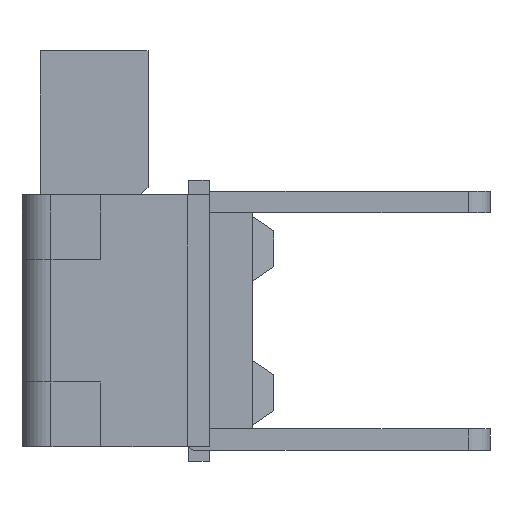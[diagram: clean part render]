
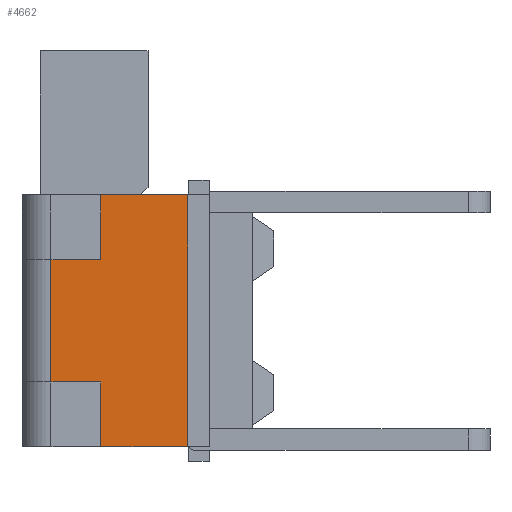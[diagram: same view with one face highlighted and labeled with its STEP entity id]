
A CAD part, left-side view. The second image highlights one B-rep face of the part: STEP entity #4662.
In plain terms, the highlighted planar face has unit normal (-1, 0, 0).
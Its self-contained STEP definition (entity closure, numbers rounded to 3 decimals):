
#1173 = CARTESIAN_POINT ( 'NONE',  ( -6.5, 2.408, 1.75 ) ) ;
#1174 = DIRECTION ( 'NONE',  ( 0., -1., 0. ) ) ;
#1175 = VECTOR ( 'NONE', #1174, 1000. ) ;
#1176 = CARTESIAN_POINT ( 'NONE',  ( -6.5, 2.408, 1.75 ) ) ;
#1177 = LINE ( 'NONE', #1176, #1175 ) ;
#1178 = CARTESIAN_POINT ( 'NONE',  ( -6.5, 1.2, 1.75 ) ) ;
#1179 = DIRECTION ( 'NONE',  ( 0., 0., -1. ) ) ;
#1180 = VECTOR ( 'NONE', #1179, 1000. ) ;
#1181 = CARTESIAN_POINT ( 'NONE',  ( -6.5, 1.2, -1.75 ) ) ;
#1182 = LINE ( 'NONE', #1181, #1180 ) ;
#1222 = FACE_OUTER_BOUND ( 'NONE', #4691, .T. ) ;
#1239 = DIRECTION ( 'NONE',  ( 0., -1., 0. ) ) ;
#1240 = VECTOR ( 'NONE', #1239, 1000. ) ;
#1241 = CARTESIAN_POINT ( 'NONE',  ( -6.5, 16.963, 0.85 ) ) ;
#1242 = LINE ( 'NONE', #1241, #1240 ) ;
#1243 = CARTESIAN_POINT ( 'NONE',  ( -6.5, 2.408, 0.85 ) ) ;
#1244 = DIRECTION ( 'NONE',  ( 0., 0., 1. ) ) ;
#1245 = VECTOR ( 'NONE', #1244, 1000. ) ;
#1246 = CARTESIAN_POINT ( 'NONE',  ( -6.5, 2.408, 0.85 ) ) ;
#1247 = LINE ( 'NONE', #1246, #1245 ) ;
#1254 = LINE ( 'NONE', #1308, #1307 ) ;
#1255 = CARTESIAN_POINT ( 'NONE',  ( -6.5, 3.097, -0.85 ) ) ;
#1256 = CARTESIAN_POINT ( 'NONE',  ( -6.5, 3.097, 0.85 ) ) ;
#1257 = DIRECTION ( 'NONE',  ( 0., 0., -1. ) ) ;
#1258 = VECTOR ( 'NONE', #1257, 1000. ) ;
#1259 = CARTESIAN_POINT ( 'NONE',  ( -6.5, 3.097, 1.8 ) ) ;
#1260 = LINE ( 'NONE', #1259, #1258 ) ;
#1261 = DIRECTION ( 'NONE',  ( 0., 0., -1. ) ) ;
#1262 = DIRECTION ( 'NONE',  ( 1., 0., 0. ) ) ;
#1263 = CARTESIAN_POINT ( 'NONE',  ( -6.5, 16.963, -0.85 ) ) ;
#1264 = AXIS2_PLACEMENT_3D ( 'NONE', #1263, #1262, #1261 ) ;
#1265 = PLANE ( 'NONE',  #1264 ) ;
#1295 = CARTESIAN_POINT ( 'NONE',  ( -6.5, 1.2, -1.75 ) ) ;
#1296 = DIRECTION ( 'NONE',  ( 0., 1., 0. ) ) ;
#1297 = VECTOR ( 'NONE', #1296, 1000. ) ;
#1298 = CARTESIAN_POINT ( 'NONE',  ( -6.5, 1.2, -1.75 ) ) ;
#1299 = LINE ( 'NONE', #1298, #1297 ) ;
#1300 = CARTESIAN_POINT ( 'NONE',  ( -6.5, 2.408, -1.75 ) ) ;
#1301 = DIRECTION ( 'NONE',  ( 0., 0., 1. ) ) ;
#1302 = VECTOR ( 'NONE', #1301, 1000. ) ;
#1303 = CARTESIAN_POINT ( 'NONE',  ( -6.5, 2.408, -1.75 ) ) ;
#1304 = LINE ( 'NONE', #1303, #1302 ) ;
#1305 = CARTESIAN_POINT ( 'NONE',  ( -6.5, 2.408, -0.85 ) ) ;
#1306 = DIRECTION ( 'NONE',  ( 0., -1., 0. ) ) ;
#1307 = VECTOR ( 'NONE', #1306, 1000. ) ;
#1308 = CARTESIAN_POINT ( 'NONE',  ( -6.5, 16.963, -0.85 ) ) ;
#4610 = ORIENTED_EDGE ( 'NONE', *, *, #4611, .F. ) ;
#4611 = EDGE_CURVE ( 'NONE', #4612, #4675, #1182, .T. ) ;
#4612 = VERTEX_POINT ( 'NONE', #1178 ) ;
#4613 = ORIENTED_EDGE ( 'NONE', *, *, #4614, .F. ) ;
#4614 = EDGE_CURVE ( 'NONE', #4615, #4612, #1177, .T. ) ;
#4615 = VERTEX_POINT ( 'NONE', #1173 ) ;
#4616 = ORIENTED_EDGE ( 'NONE', *, *, #4646, .F. ) ;
#4646 = EDGE_CURVE ( 'NONE', #4647, #4615, #1247, .T. ) ;
#4647 = VERTEX_POINT ( 'NONE', #1243 ) ;
#4648 = ORIENTED_EDGE ( 'NONE', *, *, #4649, .F. ) ;
#4649 = EDGE_CURVE ( 'NONE', #4665, #4647, #1242, .T. ) ;
#4662 = ADVANCED_FACE ( 'NONE', ( #1222 ), #1265, .F. ) ;
#4663 = ORIENTED_EDGE ( 'NONE', *, *, #4664, .T. ) ;
#4664 = EDGE_CURVE ( 'NONE', #4665, #4666, #1260, .T. ) ;
#4665 = VERTEX_POINT ( 'NONE', #1256 ) ;
#4666 = VERTEX_POINT ( 'NONE', #1255 ) ;
#4667 = ORIENTED_EDGE ( 'NONE', *, *, #4668, .T. ) ;
#4668 = EDGE_CURVE ( 'NONE', #4666, #4669, #1254, .T. ) ;
#4669 = VERTEX_POINT ( 'NONE', #1305 ) ;
#4670 = ORIENTED_EDGE ( 'NONE', *, *, #4671, .F. ) ;
#4671 = EDGE_CURVE ( 'NONE', #4672, #4669, #1304, .T. ) ;
#4672 = VERTEX_POINT ( 'NONE', #1300 ) ;
#4673 = ORIENTED_EDGE ( 'NONE', *, *, #4674, .F. ) ;
#4674 = EDGE_CURVE ( 'NONE', #4675, #4672, #1299, .T. ) ;
#4675 = VERTEX_POINT ( 'NONE', #1295 ) ;
#4691 = EDGE_LOOP ( 'NONE', ( #4663, #4667, #4670, #4673, #4610, #4613, #4616, #4648 ) ) ;
